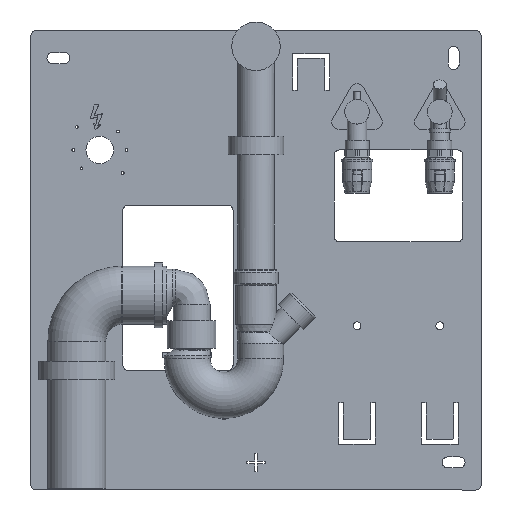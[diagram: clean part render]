
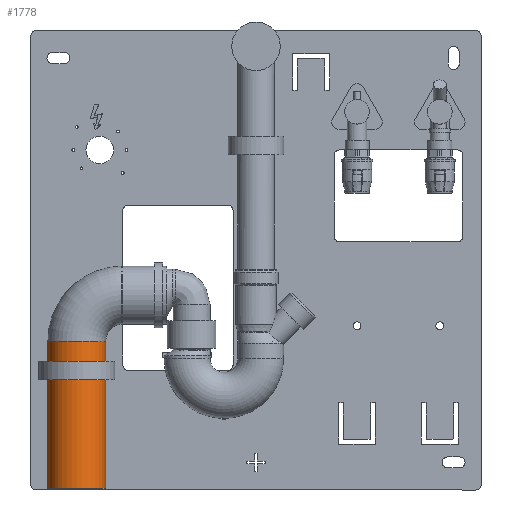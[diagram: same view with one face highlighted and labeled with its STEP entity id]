
A CAD part, front view. The second image highlights one B-rep face of the part: STEP entity #1778.
In plain terms, the highlighted cylindrical face has radius 31.5 mm (diameter 63 mm), a full revolution.
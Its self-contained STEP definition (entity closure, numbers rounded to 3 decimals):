
#1778=ADVANCED_FACE('',(#3545,#3546),#3547,.T.);
#3545=FACE_BOUND('',#6213,.T.);
#3546=FACE_BOUND('',#6214,.T.);
#3547=CYLINDRICAL_SURFACE('',#6215,31.5);
#6213=EDGE_LOOP('',(#8065));
#6214=EDGE_LOOP('',(#8066));
#6215=AXIS2_PLACEMENT_3D('',#8067,#8068,#8069);
#8065=ORIENTED_EDGE('',*,*,#12748,.F.);
#8066=ORIENTED_EDGE('',*,*,#12749,.T.);
#8067=CARTESIAN_POINT('',(-136.765,-50.0,190.0));
#8068=DIRECTION('',(0.,0.,1.0));
#8069=DIRECTION('',(0.,1.0,0.));
#12748=EDGE_CURVE('',#15768,#15768,#15769,.T.);
#12749=EDGE_CURVE('',#15770,#15770,#15771,.T.);
#15768=VERTEX_POINT('',#18268);
#15769=CIRCLE('',#18269,31.5);
#15770=VERTEX_POINT('',#18270);
#15771=CIRCLE('',#18271,31.5);
#18268=CARTESIAN_POINT('',(-105.265,-50.0,350.));
#18269=AXIS2_PLACEMENT_3D('',#21267,#21268,#21269);
#18270=CARTESIAN_POINT('',(-136.765,-18.5,190.0));
#18271=AXIS2_PLACEMENT_3D('',#21270,#21271,#21272);
#21267=CARTESIAN_POINT('',(-136.765,-50.0,350.));
#21268=DIRECTION('',(0.0,0.0,1.0));
#21269=DIRECTION('',(-1.0,0.0,0.0));
#21270=CARTESIAN_POINT('',(-136.765,-50.0,190.0));
#21271=DIRECTION('',(0.,0.,1.0));
#21272=DIRECTION('',(0.,1.0,0.));
